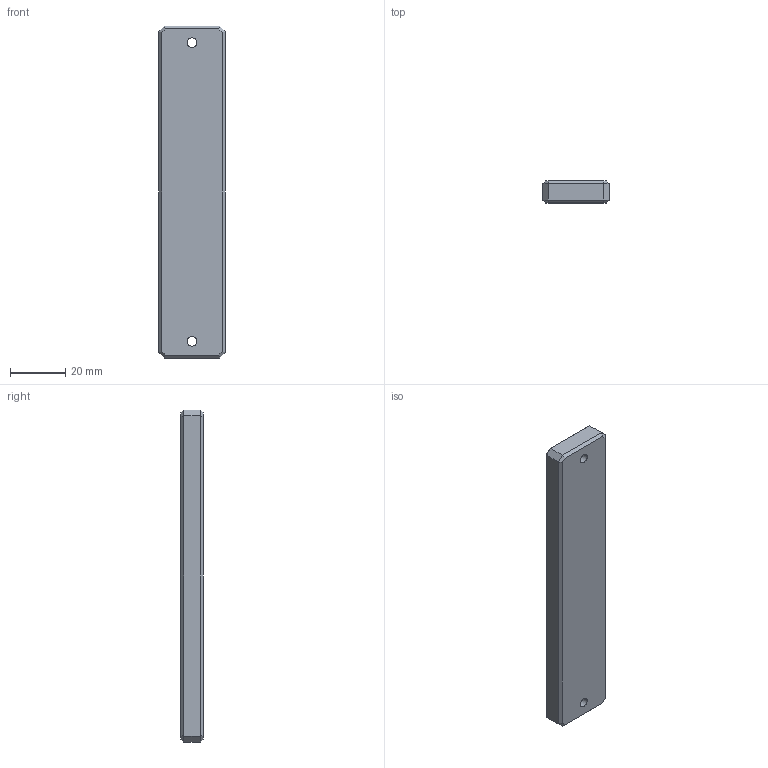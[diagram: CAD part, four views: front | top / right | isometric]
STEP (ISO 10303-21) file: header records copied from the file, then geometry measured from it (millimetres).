
FILE_DESCRIPTION((''),'2;1');
FILE_NAME('ANTENNA-V','2014-07-03T',('Tuiderw1'),('JABIL Circuit Austria GmbH'),'PRO/ENGINEER BY PARAMETRIC TECHNOLOGY CORPORATION, 2012300','PRO/ENGINEER BY PARAMETRIC TECHNOLOGY CORPORATION, 2012300','');
FILE_SCHEMA(('CONFIG_CONTROL_DESIGN','GEOMETRIC_VALIDATION_PROPERTIES_MIM'));
Length unit declared in the file: millimetre
Products named in the file (1): ANTENNA-V
Bounding box: 24 x 8 x 120 mm (x, y, z)
Volume: 22466.6 mm3; surface area: 7942.3 mm2
Topology: 1 solids, 1 shells, 119 faces, 305 edges, 198 vertices
Faces by surface type: plane 115, cylinder 4
Entity records: 4602 total; most frequent: CARTESIAN_POINT 624, ORIENTED_EDGE 610, DIRECTION 551, PRESENTATION_STYLE_ASSIGNMENT 306, STYLED_ITEM 306, CURVE_STYLE 305, EDGE_CURVE 305, VECTOR 297
